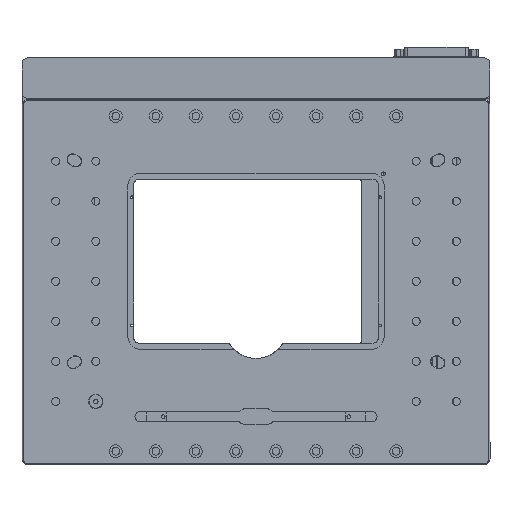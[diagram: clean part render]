
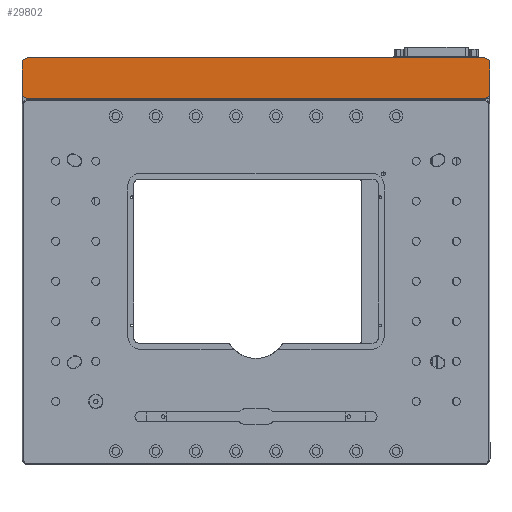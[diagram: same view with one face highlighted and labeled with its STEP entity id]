
A CAD part, top view. The second image highlights one B-rep face of the part: STEP entity #29802.
In plain terms, the highlighted planar face has unit normal (0, 0, 1).
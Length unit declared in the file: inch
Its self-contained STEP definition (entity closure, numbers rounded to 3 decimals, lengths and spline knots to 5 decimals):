
#309 = FACE_OUTER_BOUND ( 'NONE', #46771, .T. ) ;
#797 = AXIS2_PLACEMENT_3D ( 'NONE', #62820, #27673, #38294 ) ;
#2707 = AXIS2_PLACEMENT_3D ( 'NONE', #76783, #52258, #63721 ) ;
#3851 = CARTESIAN_POINT ( 'NONE',  ( -5.75224, 4.15, 0.24259 ) ) ;
#5139 = EDGE_CURVE ( 'NONE', #7933, #31932, #57024, .T. ) ;
#6342 = DIRECTION ( 'NONE',  ( 0., 1., 0. ) ) ;
#6495 = CARTESIAN_POINT ( 'NONE',  ( -5.60224, 5., 0.24259 ) ) ;
#6724 = LINE ( 'NONE', #37180, #20451 ) ;
#7818 = DIRECTION ( 'NONE',  ( 0., -1., 0. ) ) ;
#7933 = VERTEX_POINT ( 'NONE', #18764 ) ;
#8745 = VERTEX_POINT ( 'NONE', #64376 ) ;
#12003 = ORIENTED_EDGE ( 'NONE', *, *, #56930, .T. ) ;
#12977 = CARTESIAN_POINT ( 'NONE',  ( -5.75224, 4.85, 0.24259 ) ) ;
#13196 = ORIENTED_EDGE ( 'NONE', *, *, #75499, .T. ) ;
#13361 = PLANE ( 'NONE',  #33392 ) ;
#13451 = CIRCLE ( 'NONE', #797, 0.15 ) ;
#15293 = CIRCLE ( 'NONE', #74664, 0.15 ) ;
#16218 = DIRECTION ( 'NONE',  ( 0., -1., 0. ) ) ;
#18458 = VERTEX_POINT ( 'NONE', #6495 ) ;
#18764 = CARTESIAN_POINT ( 'NONE',  ( 5.74776, 4.85, 0.24259 ) ) ;
#18869 = CARTESIAN_POINT ( 'NONE',  ( -5.75224, 4.85, 0.24259 ) ) ;
#19053 = CARTESIAN_POINT ( 'NONE',  ( 5.74776, 4.85, 0.24259 ) ) ;
#20146 = CARTESIAN_POINT ( 'NONE',  ( -5.60224, 4.15, 0.24259 ) ) ;
#20451 = VECTOR ( 'NONE', #42320, 39.37008 ) ;
#26374 = VERTEX_POINT ( 'NONE', #68201 ) ;
#27600 = DIRECTION ( 'NONE',  ( 0., 0., 1. ) ) ;
#27673 = DIRECTION ( 'NONE',  ( 0., 0., 1. ) ) ;
#28093 = VERTEX_POINT ( 'NONE', #3851 ) ;
#29216 = CARTESIAN_POINT ( 'NONE',  ( 5.59776, 5., 0.24259 ) ) ;
#29802 = ADVANCED_FACE ( 'NONE', ( #309 ), #13361, .T. ) ;
#31283 = VERTEX_POINT ( 'NONE', #74802 ) ;
#31932 = VERTEX_POINT ( 'NONE', #29216 ) ;
#33392 = AXIS2_PLACEMENT_3D ( 'NONE', #37459, #27600, #57605 ) ;
#35393 = VECTOR ( 'NONE', #45069, 39.37008 ) ;
#35986 = CIRCLE ( 'NONE', #46077, 0.15 ) ;
#37180 = CARTESIAN_POINT ( 'NONE',  ( -5.60224, 5., 0.24259 ) ) ;
#37459 = CARTESIAN_POINT ( 'NONE',  ( 5.59776, -4.85, 0.24259 ) ) ;
#38294 = DIRECTION ( 'NONE',  ( 0., -1., 0. ) ) ;
#39791 = ORIENTED_EDGE ( 'NONE', *, *, #5139, .T. ) ;
#39886 = DIRECTION ( 'NONE',  ( 0., 0., 1. ) ) ;
#40306 = LINE ( 'NONE', #64462, #35393 ) ;
#42320 = DIRECTION ( 'NONE',  ( -1., 0., 0. ) ) ;
#43056 = EDGE_CURVE ( 'NONE', #28093, #8745, #35986, .T. ) ;
#43626 = VECTOR ( 'NONE', #66752, 39.37008 ) ;
#45069 = DIRECTION ( 'NONE',  ( 1., 0., 0. ) ) ;
#45681 = VECTOR ( 'NONE', #6342, 39.37008 ) ;
#46077 = AXIS2_PLACEMENT_3D ( 'NONE', #20146, #55706, #7818 ) ;
#46771 = EDGE_LOOP ( 'NONE', ( #50736, #63683, #55421, #39791, #74889, #12003, #13196, #51841 ) ) ;
#48199 = EDGE_CURVE ( 'NONE', #31283, #26374, #13451, .T. ) ;
#50736 = ORIENTED_EDGE ( 'NONE', *, *, #67457, .T. ) ;
#51768 = CARTESIAN_POINT ( 'NONE',  ( -5.60224, 4.85, 0.24259 ) ) ;
#51841 = ORIENTED_EDGE ( 'NONE', *, *, #43056, .T. ) ;
#52258 = DIRECTION ( 'NONE',  ( 0., 0., 1. ) ) ;
#55421 = ORIENTED_EDGE ( 'NONE', *, *, #57797, .T. ) ;
#55706 = DIRECTION ( 'NONE',  ( 0., 0., 1. ) ) ;
#56930 = EDGE_CURVE ( 'NONE', #18458, #66532, #15293, .T. ) ;
#57024 = CIRCLE ( 'NONE', #2707, 0.15 ) ;
#57605 = DIRECTION ( 'NONE',  ( 0., -1., 0. ) ) ;
#57689 = EDGE_CURVE ( 'NONE', #31932, #18458, #6724, .T. ) ;
#57797 = EDGE_CURVE ( 'NONE', #26374, #7933, #60567, .T. ) ;
#60567 = LINE ( 'NONE', #19053, #45681 ) ;
#62820 = CARTESIAN_POINT ( 'NONE',  ( 5.59776, 4.15, 0.24259 ) ) ;
#63683 = ORIENTED_EDGE ( 'NONE', *, *, #48199, .T. ) ;
#63721 = DIRECTION ( 'NONE',  ( 0., 1., 0. ) ) ;
#64376 = CARTESIAN_POINT ( 'NONE',  ( -5.60224, 4., 0.24259 ) ) ;
#64462 = CARTESIAN_POINT ( 'NONE',  ( -5.75224, 4., 0.24259 ) ) ;
#66532 = VERTEX_POINT ( 'NONE', #18869 ) ;
#66752 = DIRECTION ( 'NONE',  ( 0., -1., 0. ) ) ;
#67127 = LINE ( 'NONE', #12977, #43626 ) ;
#67457 = EDGE_CURVE ( 'NONE', #8745, #31283, #40306, .T. ) ;
#68201 = CARTESIAN_POINT ( 'NONE',  ( 5.74776, 4.15, 0.24259 ) ) ;
#74664 = AXIS2_PLACEMENT_3D ( 'NONE', #51768, #39886, #16218 ) ;
#74802 = CARTESIAN_POINT ( 'NONE',  ( 5.59776, 4., 0.24259 ) ) ;
#74889 = ORIENTED_EDGE ( 'NONE', *, *, #57689, .T. ) ;
#75499 = EDGE_CURVE ( 'NONE', #66532, #28093, #67127, .T. ) ;
#76783 = CARTESIAN_POINT ( 'NONE',  ( 5.59776, 4.85, 0.24259 ) ) ;
